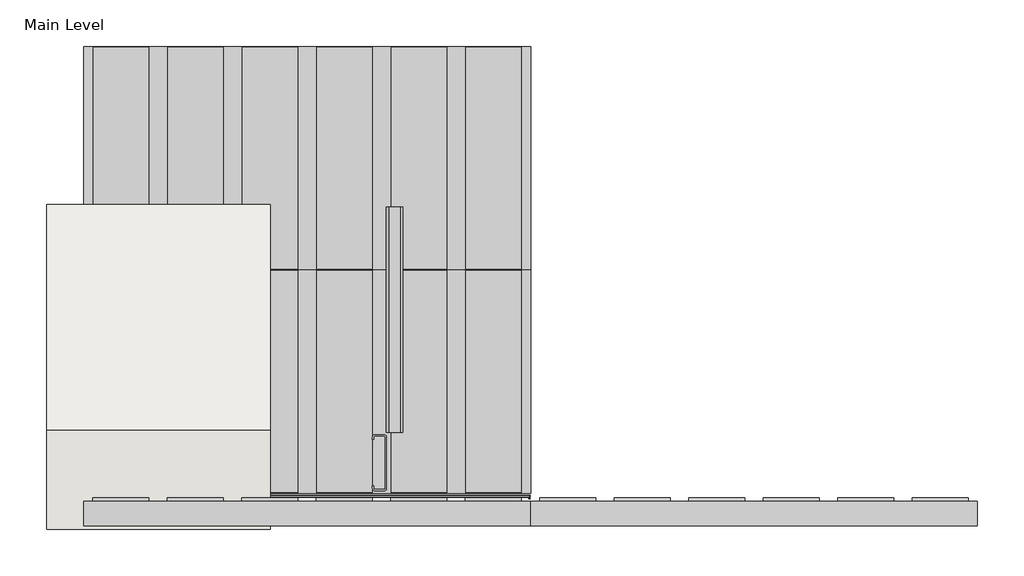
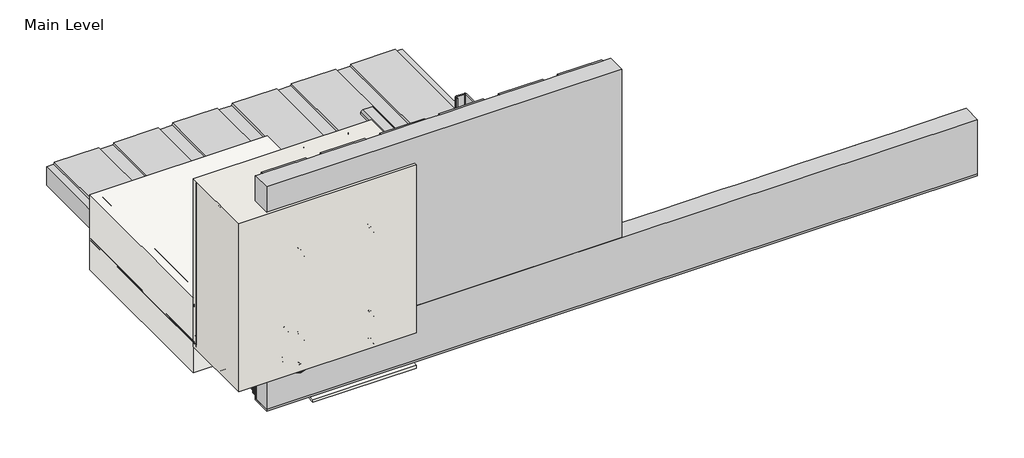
# One storey, incomplete: 28 proxies, 2 coverings, 2 walls.
"""IFC4 building model written with IfcOpenShell, lengths in millimetres."""

from ifc_helpers import new_model, si_unit, frame, origin, origin_with_axes, place, context, project, spatial, polyline, outline, extrude, transform, mapped, element, save
from components import generic_models_cd07b2ce, generic_models_8c792c9c, generic_models_2e656d56, generic_models_47e8b319, proxy_215900e5, proxy_691c8b69, proxy_63d6b373, soffit_box_soffit_box_70e22adb, top_adhesive_top_adhesive_4fbfd34a, wood_blocking_c9818c35, wood_blocking_63bdfc83

model = new_model("IFC4")

# Units and contexts
model_context = context("Model", 3, world=origin())
ifc_project = project(units=[si_unit("LENGTHUNIT", "METRE", prefix="MILLI")], contexts=[model_context])

# Site, building, storey
site = spatial("IfcSite", under=ifc_project)
building = spatial("IfcBuilding", under=site)
storey = spatial("IfcBuildingStorey", under=building, Name="Main Level", Elevation=0.0)

# Proxies
placement = place(None, origin())
generic_models_shape = generic_models_cd07b2ce(model_context)
element("IfcBuildingElementProxy", 1, Name="CRAi Generic Model Metal Stud Array : CRAi Generic Model Metal Stud Array", ObjectType="CRAi Generic Model Metal Stud Array : CRAi Generic Model Metal Stud Array", at=placement, inside=storey, context=model_context, shape_type="MappedRepresentation", body=[
    mapped(generic_models_shape, transform((26692.3726773, 719.7066297, 15.875), x_axis=(-1.0, 0.0, 0.0), y_axis=(0.0, -1.0, 0.0), z_axis=(0.0, 0.0, 1.0))),
])
element("IfcBuildingElementProxy", 2, Name="CRAi Generic Model Metal Stud Array : CRAi Generic Model Metal Stud Array", ObjectType="CRAi Generic Model Metal Stud Array : CRAi Generic Model Metal Stud Array", at=placement, inside=storey, context=model_context, shape_type="MappedRepresentation", body=[
    mapped(generic_models_shape, transform((27213.0726773, 719.7066297, 15.875), x_axis=(-1.0, 0.0, 0.0), y_axis=(0.0, -1.0, 0.0), z_axis=(0.0, 0.0, 1.0))),
])
generic_models_2_shape = generic_models_8c792c9c(model_context)
element("IfcBuildingElementProxy", 3, Name="Durabond Generic Model Screw w Standard Wall Plate : Durabond Generic Model Screw w Standard Wall Plate", ObjectType="Durabond Generic Model Screw w Standard Wall Plate : Durabond Generic Model Screw w Standard Wall Plate", at=placement, inside=storey, context=model_context, shape_type="MappedRepresentation", body=[
    mapped(generic_models_2_shape, transform((26653.4789273, 547.4628797, 47.625), x_axis=(1.0, 0.0, 0.0), y_axis=(0.0, 0.0, 1.0), z_axis=(0.0, -1.0, 0.0))),
])
element("IfcBuildingElementProxy", 4, Name="Durabond Generic Model Screw w Standard Wall Plate : Durabond Generic Model Screw w Standard Wall Plate", ObjectType="Durabond Generic Model Screw w Standard Wall Plate : Durabond Generic Model Screw w Standard Wall Plate", at=placement, inside=storey, context=model_context, shape_type="MappedRepresentation", body=[
    mapped(generic_models_2_shape, transform((26705.0726773, 544.2878797, 15.875), x_axis=(1.0, 0.0, 0.0), y_axis=(0.0, 0.0, 1.0), z_axis=(0.0, -1.0, 0.0))),
])
element("IfcBuildingElementProxy", 5, Name="Durabond Generic Model Screw w Standard Wall Plate : Durabond Generic Model Screw w Standard Wall Plate", ObjectType="Durabond Generic Model Screw w Standard Wall Plate : Durabond Generic Model Screw w Standard Wall Plate", at=placement, inside=storey, context=model_context, shape_type="MappedRepresentation", body=[
    mapped(generic_models_2_shape, transform((26653.4789273, 687.9566297, -86.51875), x_axis=(-1.0, 0.0, 0.0), y_axis=(0.0, 1.0, 0.0), z_axis=(0.0, 0.0, -1.0))),
])
element("IfcBuildingElementProxy", 6, Name="Durabond Generic Model Screw w Standard Wall Plate : Durabond Generic Model Screw w Standard Wall Plate", ObjectType="Durabond Generic Model Screw w Standard Wall Plate : Durabond Generic Model Screw w Standard Wall Plate", at=placement, inside=storey, context=model_context, shape_type="MappedRepresentation", body=[
    mapped(generic_models_2_shape, transform((26705.0726773, 662.5566297, -89.69375), x_axis=(-1.0, 0.0, 0.0), y_axis=(0.0, 1.0, 0.0), z_axis=(0.0, 0.0, -1.0))),
])
element("IfcBuildingElementProxy", 7, Name="Durabond Generic Model Screw w Standard Wall Plate : Durabond Generic Model Screw w Standard Wall Plate", ObjectType="Durabond Generic Model Screw w Standard Wall Plate : Durabond Generic Model Screw w Standard Wall Plate", at=placement, inside=storey, context=model_context, shape_type="MappedRepresentation", body=[
    mapped(generic_models_2_shape, transform((26653.4789273, 1195.9566297, -86.51875), x_axis=(-1.0, 0.0, 0.0), y_axis=(0.0, 1.0, 0.0), z_axis=(0.0, 0.0, -1.0))),
])
element("IfcBuildingElementProxy", 8, Name="Durabond Generic Model Screw w Standard Wall Plate : Durabond Generic Model Screw w Standard Wall Plate", ObjectType="Durabond Generic Model Screw w Standard Wall Plate : Durabond Generic Model Screw w Standard Wall Plate", at=placement, inside=storey, context=model_context, shape_type="MappedRepresentation", body=[
    mapped(generic_models_2_shape, transform((26653.4789273, 1297.5566297, -86.51875), x_axis=(-1.0, 0.0, 0.0), y_axis=(0.0, 1.0, 0.0), z_axis=(0.0, 0.0, -1.0))),
])
element("IfcBuildingElementProxy", 9, Name="Durabond Generic Model Screw w Standard Wall Plate : Durabond Generic Model Screw w Standard Wall Plate", ObjectType="Durabond Generic Model Screw w Standard Wall Plate : Durabond Generic Model Screw w Standard Wall Plate", at=placement, inside=storey, context=model_context, shape_type="MappedRepresentation", body=[
    mapped(generic_models_2_shape, transform((26705.0726773, 938.7816297, -89.69375), x_axis=(-1.0, 0.0, 0.0), y_axis=(0.0, 1.0, 0.0), z_axis=(0.0, 0.0, -1.0))),
])
element("IfcBuildingElementProxy", 10, Name="Durabond Generic Model Screw w Standard Wall Plate : Durabond Generic Model Screw w Standard Wall Plate", ObjectType="Durabond Generic Model Screw w Standard Wall Plate : Durabond Generic Model Screw w Standard Wall Plate", at=placement, inside=storey, context=model_context, shape_type="MappedRepresentation", body=[
    mapped(generic_models_2_shape, transform((26705.0726773, 1215.0066297, -89.69375), x_axis=(-1.0, 0.0, 0.0), y_axis=(0.0, 1.0, 0.0), z_axis=(0.0, 0.0, -1.0))),
])
element("IfcBuildingElementProxy", 11, Name="Durabond Generic Model Screw w Standard Wall Plate : Durabond Generic Model Screw w Standard Wall Plate", ObjectType="Durabond Generic Model Screw w Standard Wall Plate : Durabond Generic Model Screw w Standard Wall Plate", at=placement, inside=storey, context=model_context, shape_type="MappedRepresentation", body=[
    mapped(generic_models_2_shape, transform((26705.0726773, 1278.5066297, -89.69375), x_axis=(-1.0, 0.0, 0.0), y_axis=(0.0, 1.0, 0.0), z_axis=(0.0, 0.0, -1.0))),
])
element("IfcBuildingElementProxy", 12, Name="Durabond Generic Model Screw w Standard Wall Plate : Durabond Generic Model Screw w Standard Wall Plate", ObjectType="Durabond Generic Model Screw w Standard Wall Plate : Durabond Generic Model Screw w Standard Wall Plate", at=placement, inside=storey, context=model_context, shape_type="MappedRepresentation", body=[
    mapped(generic_models_2_shape, transform((26705.0726773, 544.2878797, 123.825), x_axis=(1.0, 0.0, 0.0), y_axis=(0.0, 0.0, 1.0), z_axis=(0.0, -1.0, 0.0))),
])
element("IfcBuildingElementProxy", 13, Name="Durabond Generic Model Screw w Standard Wall Plate : Durabond Generic Model Screw w Standard Wall Plate", ObjectType="Durabond Generic Model Screw w Standard Wall Plate : Durabond Generic Model Screw w Standard Wall Plate", at=placement, inside=storey, context=model_context, shape_type="MappedRepresentation", body=[
    mapped(generic_models_2_shape, transform((26705.0726773, 544.2878797, 428.625), x_axis=(1.0, 0.0, 0.0), y_axis=(0.0, 0.0, 1.0), z_axis=(0.0, -1.0, 0.0))),
])
element("IfcBuildingElementProxy", 14, Name="Durabond Generic Model Screw w Standard Wall Plate : Durabond Generic Model Screw w Standard Wall Plate", ObjectType="Durabond Generic Model Screw w Standard Wall Plate : Durabond Generic Model Screw w Standard Wall Plate", at=placement, inside=storey, context=model_context, shape_type="MappedRepresentation", body=[
    mapped(generic_models_2_shape, transform((26945.5789273, 544.2878797, 428.625), x_axis=(1.0, 0.0, 0.0), y_axis=(0.0, 0.0, 1.0), z_axis=(0.0, -1.0, 0.0))),
])
element("IfcBuildingElementProxy", 15, Name="Durabond Generic Model Screw w Standard Wall Plate : Durabond Generic Model Screw w Standard Wall Plate", ObjectType="Durabond Generic Model Screw w Standard Wall Plate : Durabond Generic Model Screw w Standard Wall Plate", at=placement, inside=storey, context=model_context, shape_type="MappedRepresentation", body=[
    mapped(generic_models_2_shape, transform((26653.4789273, 547.4628797, 168.275), x_axis=(1.0, 0.0, 0.0), y_axis=(0.0, 0.0, 1.0), z_axis=(0.0, -1.0, 0.0))),
])
element("IfcBuildingElementProxy", 16, Name="Durabond Generic Model Screw w Standard Wall Plate : Durabond Generic Model Screw w Standard Wall Plate", ObjectType="Durabond Generic Model Screw w Standard Wall Plate : Durabond Generic Model Screw w Standard Wall Plate", at=placement, inside=storey, context=model_context, shape_type="MappedRepresentation", body=[
    mapped(generic_models_2_shape, transform((26945.5789273, 544.2878797, 123.825), x_axis=(1.0, 0.0, 0.0), y_axis=(0.0, 0.0, 1.0), z_axis=(0.0, -1.0, 0.0))),
])
element("IfcBuildingElementProxy", 17, Name="Durabond Generic Model Screw w Standard Wall Plate : Durabond Generic Model Screw w Standard Wall Plate", ObjectType="Durabond Generic Model Screw w Standard Wall Plate : Durabond Generic Model Screw w Standard Wall Plate", at=placement, inside=storey, context=model_context, shape_type="MappedRepresentation", body=[
    mapped(generic_models_2_shape, transform((26945.5789273, 544.2878797, 23.8125), x_axis=(1.0, 0.0, 0.0), y_axis=(0.0, 0.0, 1.0), z_axis=(0.0, -1.0, 0.0))),
])
generic_models_3_shape = generic_models_2e656d56(model_context)
generic_models_4_shape = generic_models_47e8b319(model_context)
element("IfcBuildingElementProxy", 18, Name="Durabond Generic Soffit Drainage Vent : Durabond Generic Soffit Drainage Vent", ObjectType="Durabond Generic Soffit Drainage Vent : Durabond Generic Soffit Drainage Vent", at=placement, inside=storey, context=model_context, shape_type="MappedRepresentation", body=[
    mapped(generic_models_3_shape, transform((27199.3497774, 626.0441297, -93.6625), x_axis=(1.0, 0.0, 0.0), y_axis=(0.0, 1.0, 0.0), z_axis=(0.0, 0.0, 1.0))),
    mapped(generic_models_4_shape, transform((27199.3497774, 626.0441297, -93.6625), x_axis=(1.0, 0.0, 0.0), y_axis=(0.0, 1.0, 0.0), z_axis=(0.0, 0.0, 1.0))),
])
proxy_shape = proxy_215900e5(model_context)
element("IfcBuildingElementProxy", 19, Name="Durabond Generic Model Insulite Select Extruded Insulation Board : 3\"", ObjectType="Durabond Generic Model Insulite Select Extruded Insulation Board : 3\"", at=placement, inside=storey, context=model_context, shape_type="MappedRepresentation", body=[
    mapped(proxy_shape, transform((27199.5789273, 624.4566297, 396.875), x_axis=(1.0, 0.0, 0.0), y_axis=(0.0, 0.0, 1.0), z_axis=(0.0, -1.0, 0.0))),
])
element("IfcBuildingElementProxy", 20, Name="Durabond Generic Model Insulite Select Extruded Insulation Board : 3\"", ObjectType="Durabond Generic Model Insulite Select Extruded Insulation Board : 3\"", at=placement, inside=storey, context=model_context, shape_type="MappedRepresentation", body=[
    mapped(proxy_shape, transform((27200.3726773, 941.9566297, -9.525), x_axis=(-1.0, 0.0, 0.0), y_axis=(0.0, 1.0, 0.0), z_axis=(0.0, 0.0, -1.0))),
])
element("IfcBuildingElementProxy", 21, Name="Durabond Generic Model Insulite Select Extruded Insulation Board : 3\"", ObjectType="Durabond Generic Model Insulite Select Extruded Insulation Board : 3\"", at=placement, inside=storey, context=model_context, shape_type="MappedRepresentation", body=[
    mapped(proxy_shape, transform((27200.3726773, 1551.5566297, -9.5089222), x_axis=(-1.0, 0.0, 0.0), y_axis=(0.0, 1.0, 0.0), z_axis=(0.0, 0.0, -1.0))),
])
proxy_2_shape = proxy_691c8b69(model_context)
element("IfcBuildingElementProxy", 22, Name="Durabond Generic Model Insulite Select Extruded Vent Board : 3\"", ObjectType="Durabond Generic Model Insulite Select Extruded Vent Board : 3\"", at=placement, inside=storey, context=model_context, shape_type="MappedRepresentation", body=[
    mapped(proxy_2_shape, transform((27809.1789273, 624.4566297, -9.525), x_axis=(1.0, 0.0, 0.0), y_axis=(0.0, 0.0, 1.0), z_axis=(0.0, -1.0, 0.0))),
])
proxy_3_shape = proxy_63d6b373(model_context)
element("IfcBuildingElementProxy", 23, Name="Durabond Generic Model Corner 90 Membrane : 4\" Barrier Seam Tape", ObjectType="Durabond Generic Model Corner 90 Membrane : 4\" Barrier Seam Tape", at=placement, inside=storey, context=model_context, shape_type="MappedRepresentation", body=[
    mapped(proxy_3_shape, transform((26514.5726773, 627.6316297, -6.35), x_axis=(0.0, 0.0, -1.0), y_axis=(0.0, 1.0, 0.0), z_axis=(1.0, 0.0, 0.0))),
])
soffit_box_soffit_box_shape = soffit_box_soffit_box_70e22adb(model_context)
element("IfcBuildingElementProxy", 24, Name="Soffit Box : Soffit Box", ObjectType="Soffit Box : Soffit Box", at=placement, inside=storey, context=model_context, shape_type="MappedRepresentation", body=[
    mapped(soffit_box_soffit_box_shape, transform((0.0, -6.35, -6.35), x_axis=(1.0, 0.0, 0.0), y_axis=(0.0, 1.0, 0.0), z_axis=(0.0, 0.0, 1.0))),
])
element("IfcBuildingElementProxy", 25, Name="Soffit Box1 : Soffit Box", ObjectType="Soffit Box1 : Soffit Box", at=placement, inside=storey, context=model_context, shape_type="MappedRepresentation", body=[
    mapped(soffit_box_soffit_box_shape, transform((520.7, -6.35, -6.35), x_axis=(1.0, 0.0, 0.0), y_axis=(0.0, 1.0, 0.0), z_axis=(0.0, 0.0, 1.0))),
])
top_adhesive_top_adhesive_shape = top_adhesive_top_adhesive_4fbfd34a(model_context)
element("IfcBuildingElementProxy", 26, Name="Top Adhesive : Top Adhesive", ObjectType="Top Adhesive : Top Adhesive", at=placement, inside=storey, context=model_context, shape_type="MappedRepresentation", body=[
    mapped(top_adhesive_top_adhesive_shape, transform((0.0, 0.0, 0.0), x_axis=(1.0, 0.0, 0.0), y_axis=(0.0, 1.0, 0.0), z_axis=(0.0, 0.0, 1.0))),
])
wood_blocking_shape = wood_blocking_c9818c35(model_context)
element("IfcBuildingElementProxy", 27, Name="CRAi Generic Model Line Based Metal Framing Track : Wood Blocking", ObjectType="CRAi Generic Model Line Based Metal Framing Track : Wood Blocking", at=placement, inside=storey, context=model_context, shape_type="MappedRepresentation", body=[
    mapped(wood_blocking_shape, transform((26489.1726773, 643.5066297, 9.525), x_axis=(1.0, 0.0, 0.0), y_axis=(0.0, 1.0, 0.0), z_axis=(0.0, 0.0, 1.0))),
])
wood_blocking_2_shape = wood_blocking_63bdfc83(model_context)
element("IfcBuildingElementProxy", 28, Name="CRAi Generic Model Line Based Metal Framing Track : Wood Blocking", ObjectType="CRAi Generic Model Line Based Metal Framing Track : Wood Blocking", at=placement, inside=storey, context=model_context, shape_type="MappedRepresentation", body=[
    mapped(wood_blocking_2_shape, transform((26491.8622441, 795.9066297, 161.925), x_axis=(1.0, 0.0, 0.0), y_axis=(0.0, 0.0, -1.0), z_axis=(0.0, 1.0, 0.0))),
])

# Coverings
element("IfcCovering", 29, ObjectType="Durabond Detail Ceiling Metal Stud (Flexcrete) 2", at=placement, inside=storey, context=model_context, shape_type="SweptSolid", body=[
    extrude(outline(polyline([(27098.7726773, 808.6066297), (26489.1726773, 808.6066297), (26489.1726773, 1424.5566297), (27098.7726773, 1424.5566297), (27098.7726773, 808.6066297)])), frame((0.0, 0.0, -95.25), z_axis=(0.0, 0.0, 1.0), x_axis=(1.0, 0.0, 0.0)), (0.0, 0.0, 1.0), 273.05),
])
element("IfcCovering", 30, ObjectType="Durabond Stucco Lamina", at=placement, inside=storey, context=model_context, shape_type="SweptSolid", body=[
    extrude(outline(polyline([(538.7316297, -117.7552522), (614.9316297, -111.088616), (614.9316297, -120.65), (538.7316297, -127.3166362), (538.7316297, -117.7552522)])), frame((26743.1726773, 0.0, 0.0), z_axis=(1.0, 0.0, 0.0), x_axis=(0.0, 1.0, 0.0)), (0.0, 0.0, 1.0), 355.6),
])

# Walls
element("IfcWall", 31, ObjectType="189mm (7.5”) EIFS Field Applied on Mtl. Stud Layer - 50mm Grooved Insulation Board Metal Stud Wall(AirStop) 2", at=placement, inside=storey, context=model_context, shape_type="SweptSolid", body=[
    extrude(outline(polyline([(27098.7726773, 538.7316297), (26489.1726773, 538.7316297), (26489.1726773, 808.6066297), (27098.7726773, 808.6066297), (27098.7726773, 538.7316297)])), origin_with_axes(), (0.0, 0.0, 1.0), 609.6),
])
element("IfcWall", 32, ObjectType="Durabond Stucco System Lamina Back of Soffit", at=placement, inside=storey, context=model_context, shape_type="SweptSolid", body=[
    extrude(outline(polyline([(27098.7726773, 614.9316297), (26743.1726773, 614.9316297), (26743.1726773, 621.2816297), (27098.7726773, 621.2816297), (27098.7726773, 614.9316297)])), frame((0.0, 0.0, -123.7148464), z_axis=(0.0, 0.0, 1.0), x_axis=(1.0, 0.0, 0.0)), (0.0, 0.0, 1.0), 47.5148464),
])

save(model, "model.ifc")
